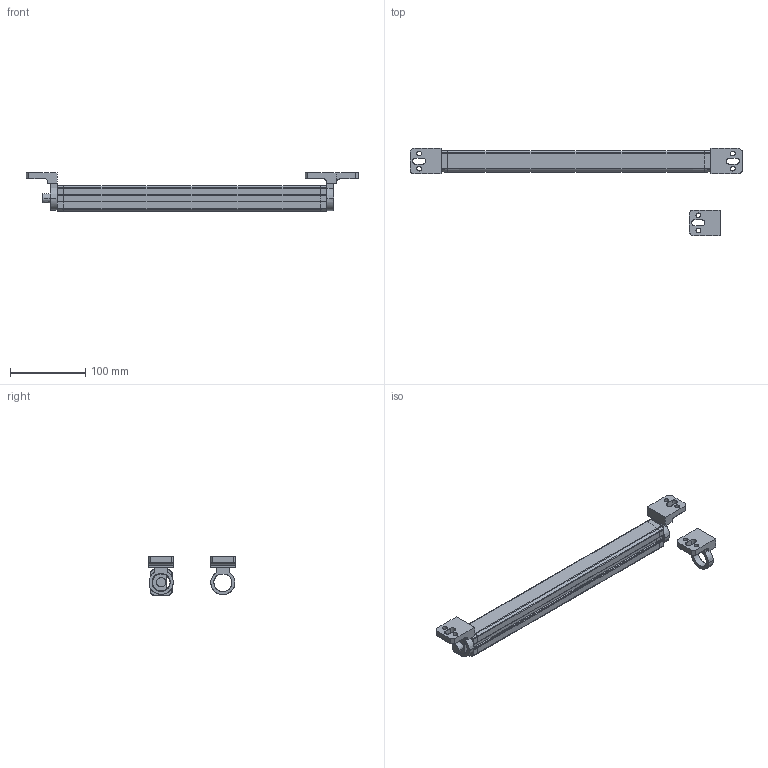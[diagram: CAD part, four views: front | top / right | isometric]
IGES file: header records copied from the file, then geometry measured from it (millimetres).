
Global section: file name: M:\acadjob\SOLID-2\DXF-IGES-Geräte-Daten für Kunden\IGES\Solid_300.igs; native system: AutoCAD-15.05s (LMS Tech) (Microsoft Windows NT Version 5.1 (x86)); preprocessor: Autodesk IGES Translator R2000i (Jul 31 2000) from Autodesk, Inc.; date: 20070306.145906; units: millimetre
Bounding box: 439.97 x 115.8 x 51.28 mm (x, y, z)
Surface area: 93859.6 mm2 (no closed solid volume)
Topology: 0 solids, 0 shells, 230 faces, 5800 edges, 5800 vertices
Faces by surface type: bspline 230
